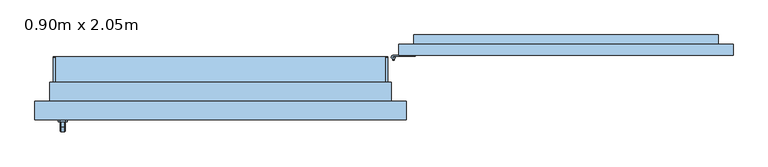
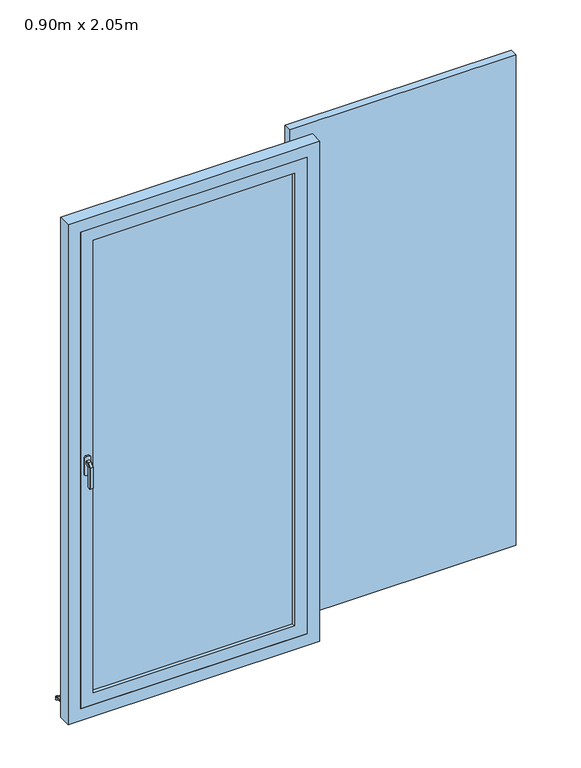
"""IFC4 building model written with IfcOpenShell, lengths in millimetres: window geometry, PF 1 Vantail droit - Volet et petits bois : 0.90m x 2.05m."""

from ifc_helpers import new_model, si_unit, point, frame, frame_2d, origin, place, context, project, spatial, polyline, circle_curve, trimmed, segment, composite_curve, outline, extrude, faceted_brep, source, transform, mapped, element, save
from ifc_brep_helpers import plane_surface, cylinder_surface, advanced_brep


def window_0_90m_x_2_05m_de598733(model_context):
    return source(origin(), model_context, "Body", "SolidModel", [
        extrude(outline(polyline([(1380.0, 93.0), (480.0, 93.0), (480.0, 123.0), (1380.0, 123.0), (1380.0, 93.0)])), frame((0.0, 0.0, 25.0), z_axis=(0.0, 0.0, 1.0), x_axis=(1.0, 0.0, 0.0)), (0.0, 0.0, 1.0), 2060.0),
        advanced_brep(
        [(460.0, 88.0, 225.0), (470.0, 88.0, 225.0), (460.0, 88.0, 200.0), (470.0, 88.0, 200.0), (467.0, 83.4174243, 205.0), (463.0, 83.4174243, 205.0), (463.0, 83.4174243, 215.0), (467.0, 83.4174243, 215.0), (463.0, 80.0, 215.0), (467.0, 80.0, 215.0), (467.0, 80.0, 205.0), (463.0, 80.0, 205.0)],
        [
            (0, 1, circle_curve(frame((465.0, 88.0, 225.0), z_axis=(0.0, 0.0, 1.0), x_axis=(1.0, 0.0, 0.0)), 5.0)),
            (1, 0, circle_curve(frame((465.0, 88.0, 225.0), z_axis=(0.0, 0.0, 1.0), x_axis=(1.0, 0.0, 0.0)), 5.0)),
            (2, 3, circle_curve(frame((465.0, 88.0, 200.0), z_axis=(0.0, 0.0, -1.0), x_axis=(1.0, 0.0, 0.0)), 5.0)),
            (3, 2, circle_curve(frame((465.0, 88.0, 200.0), z_axis=(0.0, 0.0, -1.0), x_axis=(1.0, 0.0, 0.0)), 5.0)),
            (0, 2),
            (3, 1),
            (4, 5, circle_curve(frame((465.0, 88.0, 205.0), z_axis=(0.0, 0.0, -1.0), x_axis=(1.0, 0.0, 0.0)), 5.0)),
            (5, 6),
            (6, 7, circle_curve(frame((465.0, 88.0, 215.0), z_axis=(0.0, 0.0, 1.0), x_axis=(1.0, 0.0, 0.0)), 5.0)),
            (7, 4),
            (8, 9),
            (9, 7),
            (6, 8),
            (10, 11),
            (11, 5),
            (4, 10),
            (9, 10),
            (11, 8),
        ],
        [
            plane_surface(frame((470.0, 88.0, 225.0), z_axis=(0.0, 0.0, 1.0), x_axis=(0.0, 1.0, 0.0))),
            plane_surface(frame((470.0, 88.0, 200.0), z_axis=(0.0, 0.0, -1.0), x_axis=(0.0, -1.0, 0.0))),
            cylinder_surface(frame((465.0, 88.0, 200.0), z_axis=(0.0, 0.0, 1.0), x_axis=(1.0, 0.0, 0.0)), 5.0),
            plane_surface(frame((467.0, 80.0, 215.0), z_axis=(0.0, 0.0, 1.0), x_axis=(0.0, 1.0, 0.0))),
            plane_surface(frame((467.0, 80.0, 205.0), z_axis=(0.0, 0.0, -1.0), x_axis=(0.0, -1.0, 0.0))),
            plane_surface(frame((467.0, 80.0, 215.0), z_axis=(1.0, 0.0, 0.0), x_axis=(0.0, 0.0, -1.0))),
            plane_surface(frame((463.0, 85.0, 215.0), z_axis=(-1.0, 0.0, 0.0), x_axis=(0.0, 0.0, -1.0))),
            plane_surface(frame((463.0, 80.0, 215.0), z_axis=(0.0, -1.0, 0.0), x_axis=(0.0, 0.0, -1.0))),
        ],
        [
            (0, [[1, 2]]),
            (1, [[3, 4]]),
            (2, [[-1, 5, -4, 6], [7, 8, 9, 10]]),
            (2, [[-2, -6, -3, -5]]),
            (3, [[11, 12, -9, 13]]),
            (4, [[14, 15, -7, 16]]),
            (5, [[17, -16, -10, -12]]),
            (6, [[18, -13, -8, -15]]),
            (7, [[-11, -18, -14, -17]]),
        ],
    ),
        extrude(outline(composite_curve([segment(polyline([(465.0, 93.0), (524.3092325, 93.0), (524.3092325, 90.5), (465.0, 90.5)]), True, "CONTINUOUS"), segment(trimmed(circle_curve(frame_2d((465.0, 88.0)), 2.5), [point((465.0, 90.5))], [point((467.5, 88.0))], True, "CARTESIAN"), True, "CONTINUOUS"), segment(polyline([(467.5, 88.0), (470.0, 88.0)]), True, "CONTINUOUS"), segment(trimmed(circle_curve(frame_2d((465.0, 88.0)), 5.0), [point((470.0, 88.0))], [point((465.0, 93.0))], False, "CARTESIAN"), True, "CONTINUOUS")], self_intersect=False)), frame((0.0, 0.0, 225.0), z_axis=(0.0, 0.0, 1.0), x_axis=(1.0, 0.0, 0.0)), (0.0, 0.0, 1.0), 25.0),
        extrude(outline(composite_curve([segment(trimmed(circle_curve(frame_2d((465.0, 88.0)), 2.5), [point((462.5, 88.0))], [point((467.5, 88.0))], False, "CARTESIAN"), True, "CONTINUOUS"), segment(trimmed(circle_curve(frame_2d((465.0, 88.0)), 2.5), [point((467.5, 88.0))], [point((462.5, 88.0))], False, "CARTESIAN"), True, "CONTINUOUS")], self_intersect=False)), frame((0.0, 0.0, 225.0), z_axis=(0.0, 0.0, 1.0), x_axis=(1.0, 0.0, 0.0)), (0.0, 0.0, 1.0), 25.0),
        advanced_brep(
        [(460.0, 88.0, 1885.0), (470.0, 88.0, 1885.0), (460.0, 88.0, 1860.0), (470.0, 88.0, 1860.0), (463.0, 83.4174243, 1875.0), (467.0, 83.4174243, 1875.0), (467.0, 83.4174243, 1865.0), (463.0, 83.4174243, 1865.0), (463.0, 80.0, 1875.0), (467.0, 80.0, 1875.0), (463.0, 80.0, 1865.0), (467.0, 80.0, 1865.0)],
        [
            (0, 1, circle_curve(frame((465.0, 88.0, 1885.0), z_axis=(0.0, 0.0, 1.0), x_axis=(1.0, 0.0, 0.0)), 5.0)),
            (1, 0, circle_curve(frame((465.0, 88.0, 1885.0), z_axis=(0.0, 0.0, 1.0), x_axis=(1.0, 0.0, 0.0)), 5.0)),
            (2, 3, circle_curve(frame((465.0, 88.0, 1860.0), z_axis=(0.0, 0.0, -1.0), x_axis=(1.0, 0.0, 0.0)), 5.0)),
            (3, 2, circle_curve(frame((465.0, 88.0, 1860.0), z_axis=(0.0, 0.0, -1.0), x_axis=(1.0, 0.0, 0.0)), 5.0)),
            (0, 2),
            (3, 1),
            (4, 5, circle_curve(frame((465.0, 88.0, 1875.0), z_axis=(0.0, 0.0, 1.0), x_axis=(1.0, 0.0, 0.0)), 5.0)),
            (5, 6),
            (6, 7, circle_curve(frame((465.0, 88.0, 1865.0), z_axis=(0.0, 0.0, -1.0), x_axis=(1.0, 0.0, 0.0)), 5.0)),
            (7, 4),
            (8, 9),
            (9, 5),
            (4, 8),
            (10, 7),
            (6, 11),
            (11, 10),
            (8, 10),
            (11, 9),
        ],
        [
            plane_surface(frame((470.0, 88.0, 1885.0), z_axis=(0.0, 0.0, 1.0), x_axis=(0.0, 1.0, 0.0))),
            plane_surface(frame((470.0, 88.0, 1860.0), z_axis=(0.0, 0.0, -1.0), x_axis=(0.0, -1.0, 0.0))),
            cylinder_surface(frame((465.0, 88.0, 1860.0), z_axis=(0.0, 0.0, 1.0), x_axis=(1.0, 0.0, 0.0)), 5.0),
            plane_surface(frame((463.0, 80.0, 1875.0), z_axis=(0.0, 0.0, 1.0), x_axis=(1.0, 0.0, 0.0))),
            plane_surface(frame((463.0, 80.0, 1865.0), z_axis=(0.0, 0.0, -1.0), x_axis=(-1.0, 0.0, 0.0))),
            plane_surface(frame((463.0, 80.0, 1875.0), z_axis=(0.0, -1.0, 0.0), x_axis=(0.0, 0.0, -1.0))),
            plane_surface(frame((467.0, 80.0, 1875.0), z_axis=(1.0, 0.0, 0.0), x_axis=(0.0, 0.0, -1.0))),
            plane_surface(frame((463.0, 83.4174243, 1875.0), z_axis=(-1.0, 0.0, 0.0), x_axis=(0.0, 0.0, -1.0))),
        ],
        [
            (0, [[1, 2]]),
            (1, [[3, 4]]),
            (2, [[-1, 5, -4, 6], [7, 8, 9, 10]]),
            (2, [[-2, -6, -3, -5]]),
            (3, [[11, 12, -7, 13]]),
            (4, [[14, -9, 15, 16]]),
            (5, [[-11, 17, -16, 18]]),
            (6, [[-12, -18, -15, -8]]),
            (7, [[-13, -10, -14, -17]]),
        ],
    ),
        extrude(outline(polyline([(463.0, 80.0), (463.0, 83.4174243), (467.0, 83.4174243), (467.0, 80.0), (463.0, 80.0)])), frame((0.0, 0.0, 1035.0), z_axis=(0.0, 0.0, 1.0), x_axis=(1.0, 0.0, 0.0)), (0.0, 0.0, 1.0), 10.0),
        extrude(outline(composite_curve([segment(polyline([(465.0, 93.0), (524.3092325, 93.0), (524.3092325, 90.5), (465.0, 90.5)]), True, "CONTINUOUS"), segment(trimmed(circle_curve(frame_2d((465.0, 88.0)), 2.5), [point((465.0, 90.5))], [point((462.5, 88.0))], True, "CARTESIAN"), True, "CONTINUOUS"), segment(trimmed(circle_curve(frame_2d((465.0, 88.0)), 2.5), [point((462.5, 88.0))], [point((467.5, 88.0))], True, "CARTESIAN"), True, "CONTINUOUS"), segment(polyline([(467.5, 88.0), (470.0, 88.0)]), True, "CONTINUOUS"), segment(trimmed(circle_curve(frame_2d((465.0, 88.0)), 5.0), [point((470.0, 88.0))], [point((465.0, 93.0))], False, "CARTESIAN"), True, "CONTINUOUS")], self_intersect=False)), frame((0.0, 0.0, 1055.0), z_axis=(0.0, 0.0, 1.0), x_axis=(1.0, 0.0, 0.0)), (0.0, 0.0, 1.0), 25.0),
        extrude(outline(composite_curve([segment(trimmed(circle_curve(frame_2d((465.0, 88.0)), 2.5), [point((462.5, 88.0))], [point((467.5, 88.0))], False, "CARTESIAN"), True, "CONTINUOUS"), segment(trimmed(circle_curve(frame_2d((465.0, 88.0)), 2.5), [point((467.5, 88.0))], [point((462.5, 88.0))], False, "CARTESIAN"), True, "CONTINUOUS")], self_intersect=False)), frame((0.0, 0.0, 1055.0), z_axis=(0.0, 0.0, 1.0), x_axis=(1.0, 0.0, 0.0)), (0.0, 0.0, 1.0), 25.0),
        extrude(outline(composite_curve([segment(trimmed(circle_curve(frame_2d((465.0, 88.0)), 5.0), [point((460.0, 88.0))], [point((470.0, 88.0))], False, "CARTESIAN"), True, "CONTINUOUS"), segment(trimmed(circle_curve(frame_2d((465.0, 88.0)), 5.0), [point((470.0, 88.0))], [point((460.0, 88.0))], False, "CARTESIAN"), True, "CONTINUOUS")], self_intersect=False)), frame((0.0, 0.0, 1030.0), z_axis=(0.0, 0.0, 1.0), x_axis=(1.0, 0.0, 0.0)), (0.0, 0.0, 1.0), 25.0),
        extrude(outline(composite_curve([segment(polyline([(465.0, 93.0), (524.3092325, 93.0), (524.3092325, 90.5), (465.0, 90.5)]), True, "CONTINUOUS"), segment(trimmed(circle_curve(frame_2d((465.0, 88.0)), 2.5), [point((465.0, 90.5))], [point((467.5, 88.0))], True, "CARTESIAN"), True, "CONTINUOUS"), segment(polyline([(467.5, 88.0), (470.0, 88.0)]), True, "CONTINUOUS"), segment(trimmed(circle_curve(frame_2d((465.0, 88.0)), 5.0), [point((470.0, 88.0))], [point((465.0, 93.0))], False, "CARTESIAN"), True, "CONTINUOUS")], self_intersect=False)), frame((0.0, 0.0, 1885.0), z_axis=(0.0, 0.0, 1.0), x_axis=(1.0, 0.0, 0.0)), (0.0, 0.0, 1.0), 25.0),
        extrude(outline(composite_curve([segment(trimmed(circle_curve(frame_2d((465.0, 88.0)), 2.5), [point((462.5, 88.0))], [point((467.5, 88.0))], False, "CARTESIAN"), True, "CONTINUOUS"), segment(trimmed(circle_curve(frame_2d((465.0, 88.0)), 2.5), [point((467.5, 88.0))], [point((462.5, 88.0))], False, "CARTESIAN"), True, "CONTINUOUS")], self_intersect=False)), frame((0.0, 0.0, 1885.0), z_axis=(0.0, 0.0, 1.0), x_axis=(1.0, 0.0, 0.0)), (0.0, 0.0, 1.0), 25.0),
        extrude(outline(polyline([(1845.0, 1229.8496106), (1095.0, 520.0), (1095.0, 630.1503894), (1845.0, 1340.0), (1845.0, 1229.8496106)])), frame((0.0, 123.0, 0.0), z_axis=(0.0, 1.0, 0.0), x_axis=(0.0, 0.0, 1.0)), (0.0, 0.0, 1.0), 25.0),
        extrude(outline(polyline([(265.0, 630.1511146), (1015.0, 1340.0007252), (1015.0, 1229.8503358), (265.0, 520.0007252), (265.0, 630.1511146)])), frame((0.0, 123.0, 0.0), z_axis=(0.0, 1.0, 0.0), x_axis=(0.0, 0.0, 1.0)), (0.0, 0.0, 1.0), 25.0),
        extrude(outline(polyline([(520.0, 148.0), (1340.0, 148.0), (1340.0, 123.0), (520.0, 123.0), (520.0, 148.0)])), frame((0.0, 0.0, 1845.0), z_axis=(0.0, 0.0, 1.0), x_axis=(1.0, 0.0, 0.0)), (0.0, 0.0, 1.0), 80.0),
        extrude(outline(polyline([(520.0, 148.0), (1340.0, 148.0), (1340.0, 123.0), (520.0, 123.0), (520.0, 148.0)])), frame((0.0, 0.0, 185.0), z_axis=(0.0, 0.0, 1.0), x_axis=(1.0, 0.0, 0.0)), (0.0, 0.0, 1.0), 80.0),
        extrude(outline(polyline([(520.0, 148.0), (1340.0, 148.0), (1340.0, 123.0), (520.0, 123.0), (520.0, 148.0)])), frame((0.0, 0.0, 1015.0), z_axis=(0.0, 0.0, 1.0), x_axis=(1.0, 0.0, 0.0)), (0.0, 0.0, 1.0), 80.0),
        faceted_brep([(-419.3539903, -86.0, 1122.0339292), (-417.9660708, -86.0, 1120.6460097), (-417.9660708, -86.0, 1109.3323012), (-419.3323012, -86.0, 1107.9660708), (-430.6676988, -86.0, 1107.9660708), (-432.0339292, -86.0, 1109.3323012), (-432.0339292, -86.0, 1120.6460097), (-430.6460097, -86.0, 1122.0339292), (-419.3539903, -98.9135489, 1122.0339292), (-417.9660708, -98.3386538, 1120.6460097), (-417.9660708, -111.6460097, 1107.3386538), (-417.9660708, -111.6460097, 1020.0), (-417.9660708, -100.3323012, 1020.0), (-417.9660708, -100.3323012, 1102.6523623), (-417.9660708, -93.6523623, 1109.3323012), (-419.3323012, -93.0864511, 1107.9660708), (-430.6676988, -93.0864511, 1107.9660708), (-432.0339292, -93.6523623, 1109.3323012), (-432.0339292, -100.3323012, 1102.6523623), (-432.0339292, -100.3323012, 1020.0), (-432.0339292, -111.6460097, 1020.0), (-432.0339292, -111.6460097, 1107.3386538), (-432.0339292, -98.3386538, 1120.6460097), (-430.6460097, -98.9135489, 1122.0339292), (-419.3539903, -113.0339292, 1107.9135489), (-419.3323012, -98.9660708, 1102.0864511), (-430.6676988, -98.9660708, 1102.0864511), (-430.6460097, -113.0339292, 1107.9135489), (-419.3539903, -113.0339292, 1020.0), (-430.6460097, -113.0339292, 1020.0), (-430.6676988, -98.9660708, 1020.0), (-419.3323012, -98.9660708, 1020.0)], [[[0, 1, 2, 3, 4, 5, 6, 7]], [[1, 0, 8, 9]], [[2, 1, 9, 10, 11, 12, 13, 14]], [[3, 2, 14, 15]], [[4, 3, 15, 16]], [[5, 4, 16, 17]], [[6, 5, 17, 18, 19, 20, 21, 22]], [[7, 6, 22, 23]], [[0, 7, 23, 8]], [[9, 8, 24, 10]], [[15, 14, 13, 25]], [[16, 15, 25, 26]], [[17, 16, 26, 18]], [[23, 22, 21, 27]], [[8, 23, 27, 24]], [[28, 29, 20, 19, 30, 31, 12, 11]], [[10, 24, 28, 11]], [[25, 13, 12, 31]], [[26, 25, 31, 30]], [[18, 26, 30, 19]], [[27, 21, 20, 29]], [[24, 27, 29, 28]]]),
        extrude(outline(polyline([(1140.0, -418.0), (1140.0, -432.0), (1135.0, -437.0), (1065.0, -437.0), (1060.0, -432.0), (1060.0, -418.0), (1065.0, -413.0), (1135.0, -413.0), (1140.0, -418.0)])), frame((0.0, -86.0, 0.0), z_axis=(0.0, 1.0, 0.0), x_axis=(0.0, 0.0, 1.0)), (0.0, 0.0, 1.0), 6.0),
        extrude(outline(polyline([(90.0288776, 30.7927954), (90.0288776, 19.7145929), (85.0288776, 20.2401141), (85.0288776, 26.0631048), (0.0, 35.0), (0.0, 50.0), (5.0, 50.0), (5.0, 39.7296906), (90.0288776, 30.7927954)])), frame((-450.0, 0.0, 0.0), z_axis=(1.0, 0.0, 0.0), x_axis=(0.0, 1.0, 0.0)), (0.0, 0.0, 1.0), 900.0),
        extrude(outline(composite_curve([segment(polyline([(90.0288776, 30.7927954), (5.0, 39.7296906), (5.0, 44.757232), (86.4469915, 36.1968082)]), True, "CONTINUOUS"), segment(trimmed(circle_curve(frame_2d((86.0288776, 32.2187207)), 4.0), [point((86.4469915, 36.1968082))], [point((90.0288776, 32.2187207))], False, "CARTESIAN"), True, "CONTINUOUS"), segment(polyline([(90.0288776, 32.2187207), (90.0288776, 30.7927954)]), True, "CONTINUOUS")], self_intersect=False)), frame((-450.0, 0.0, 0.0), z_axis=(1.0, 0.0, 0.0), x_axis=(0.0, 1.0, 0.0)), (0.0, 0.0, 1.0), 5.0),
        extrude(outline(composite_curve([segment(polyline([(90.0288776, 30.7927954), (5.0, 39.7296906), (5.0, 44.757232), (86.4469915, 36.1968082)]), True, "CONTINUOUS"), segment(trimmed(circle_curve(frame_2d((86.0288776, 32.2187207)), 4.0), [point((86.4469915, 36.1968082))], [point((90.0288776, 32.2187207))], False, "CARTESIAN"), True, "CONTINUOUS"), segment(polyline([(90.0288776, 32.2187207), (90.0288776, 30.7927954)]), True, "CONTINUOUS")], self_intersect=False)), frame((445.0, 0.0, 0.0), z_axis=(1.0, 0.0, 0.0), x_axis=(0.0, 1.0, 0.0)), (0.0, 0.0, 1.0), 5.0),
        extrude(outline(polyline([(-400.0, -54.0), (400.0, -54.0), (400.0, -66.0), (-400.0, -66.0), (-400.0, -54.0)])), frame((0.0, 0.0, 135.0), z_axis=(0.0, 0.0, 1.0), x_axis=(1.0, 0.0, 0.0)), (0.0, 0.0, 1.0), 1900.0),
        extrude(outline(polyline([(85.0, 450.0), (2085.0, 450.0), (2085.0, -450.0), (85.0, -450.0), (85.0, 450.0)]), holes=[polyline([(135.0, -400.0), (2035.0, -400.0), (2035.0, 400.0), (135.0, 400.0), (135.0, -400.0)])]), frame((0.0, -80.0, 0.0), z_axis=(0.0, 1.0, 0.0), x_axis=(0.0, 0.0, 1.0)), (0.0, 0.0, 1.0), 40.0),
        faceted_brep([(-500.0, -80.0, 35.0), (-500.0, -30.0, 35.0), (-450.0, -30.0, 35.0), (-450.0, 0.0, 35.0), (450.0, 0.0, 35.0), (450.0, -30.0, 35.0), (500.0, -30.0, 35.0), (500.0, -80.0, 35.0), (-500.0, -80.0, 2135.0), (-500.0, -30.0, 2135.0), (500.0, -30.0, 2135.0), (450.0, -30.0, 74.3761425), (-450.0, -30.0, 74.3761425), (-435.0, -30.0, 2070.0), (-435.0, -30.0, 100.0), (435.0, -30.0, 100.0), (435.0, -30.0, 2070.0), (-450.0, 20.0, 60.9786829), (-450.0, 20.0, 45.0), (-450.0, 10.0, 45.0), (-450.0, 10.0, 50.0), (-450.0, 0.0, 50.0), (450.0, 0.0, 50.0), (450.0, 10.0, 50.0), (450.0, 10.0, 45.0), (450.0, 20.0, 45.0), (450.0, 20.0, 60.9786829), (500.0, -80.0, 2135.0), (450.0, -80.0, 2085.0), (450.0, -80.0, 85.0), (-450.0, -80.0, 85.0), (-450.0, -80.0, 2085.0), (-435.0, -40.0, 2070.0), (-435.0, -40.0, 100.0), (435.0, -40.0, 100.0), (435.0, -40.0, 2070.0), (450.0, -40.0, 2085.0), (-450.0, -40.0, 2085.0), (-450.0, -40.0, 85.0), (450.0, -40.0, 85.0)], [[[0, 1, 2, 3, 4, 5, 6, 7]], [[1, 0, 8, 9]], [[1, 9, 10, 6, 5, 11, 12, 2], [13, 14, 15, 16]], [[12, 17, 18, 19, 20, 21, 3, 2]], [[3, 21, 22, 4]], [[4, 22, 23, 24, 25, 26, 11, 5]], [[6, 10, 27, 7]], [[0, 7, 27, 8], [28, 29, 30, 31]], [[13, 32, 33, 14]], [[33, 34, 15, 14]], [[35, 16, 15, 34]], [[17, 12, 11, 26]], [[36, 37, 38, 39], [32, 35, 34, 33]], [[38, 37, 31, 30]], [[30, 29, 39, 38]], [[28, 36, 39, 29]], [[18, 17, 26, 25]], [[19, 18, 25, 24]], [[20, 19, 24, 23]], [[21, 20, 23, 22]], [[13, 16, 35, 32]], [[37, 36, 28, 31]], [[10, 9, 8, 27]]]),
        extrude(outline(polyline([(35.0, -460.0), (35.0, -450.0), (2085.0, -450.0), (2085.0, 450.0), (35.0, 450.0), (35.0, 460.0), (2095.0, 460.0), (2095.0, -460.0), (35.0, -460.0)])), frame((0.0, -30.0, 0.0), z_axis=(0.0, 1.0, 0.0), x_axis=(0.0, 0.0, 1.0)), (0.0, 0.0, 1.0), 50.0),
    ])


if __name__ == "__main__":
    model = new_model("IFC4")
    model_context = context("Model", 3, world=origin())
    ifc_project = project(units=[si_unit("LENGTHUNIT", "METRE", prefix="MILLI")], contexts=[model_context])
    site = spatial("IfcSite", under=ifc_project)
    building = spatial("IfcBuilding", under=site)
    placement = place(None, origin())
    window_0_90m_x_2_05m_shape = window_0_90m_x_2_05m_de598733(model_context)
    element("IfcWindow", 1, ObjectType="PF 1 Vantail droit - Volet et petits bois : 0.90m x 2.05m", at=placement, inside=building, context=model_context, shape_type="MappedRepresentation", body=[
        mapped(window_0_90m_x_2_05m_shape, transform((0.0, 0.0, 0.0), x_axis=(1.0, 0.0, 0.0), y_axis=(0.0, 1.0, 0.0), z_axis=(0.0, 0.0, 1.0))),
    ])
    save(model, "model.ifc")
